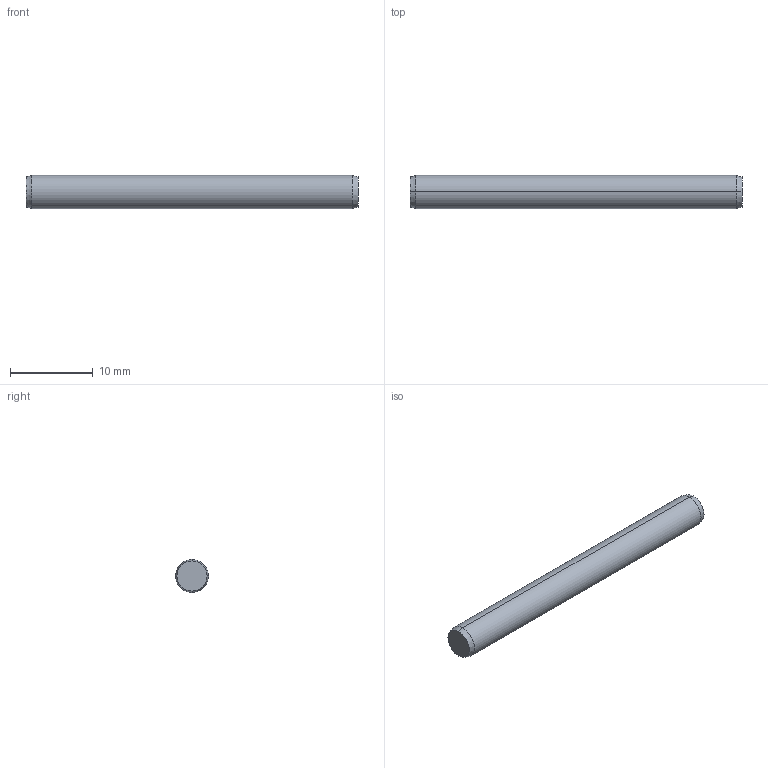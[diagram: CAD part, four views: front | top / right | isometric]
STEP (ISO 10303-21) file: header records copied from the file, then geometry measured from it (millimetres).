
FILE_DESCRIPTION (( 'STEP AP203' ), '1' );
FILE_NAME ('P1206.040-040.step', '2017-06-14T08:12:22', ( 'User' ), ( '' ), 'SwSTEP 2.0', 'SolidWorks 2009', '' );
FILE_SCHEMA (( 'CONFIG_CONTROL_DESIGN' ));
Length unit declared in the file: millimetre
Products named in the file (1): P1206.040-040
Bounding box: 40 x 4 x 4 mm (x, y, z)
Volume: 501.1 mm3; surface area: 523.1 mm2
Topology: 1 solids, 1 shells, 8 faces, 14 edges, 8 vertices
Faces by surface type: cone 4, cylinder 2, plane 2
Entity records: 271 total; most frequent: DIRECTION 40, CARTESIAN_POINT 31, ORIENTED_EDGE 28, AXIS2_PLACEMENT_3D 17, EDGE_CURVE 14, PERSON_AND_ORGANIZATION 8, EDGE_LOOP 8, VERTEX_POINT 8
